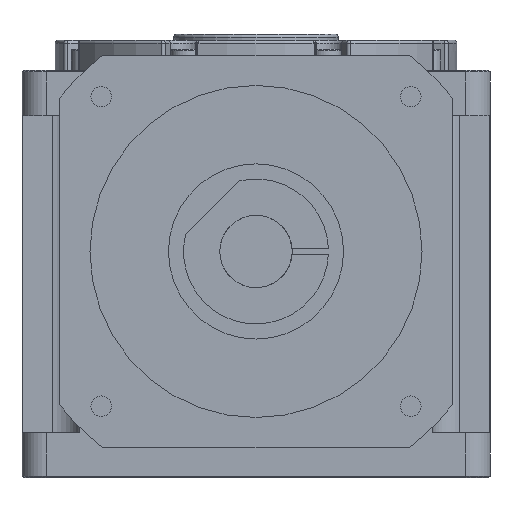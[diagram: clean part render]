
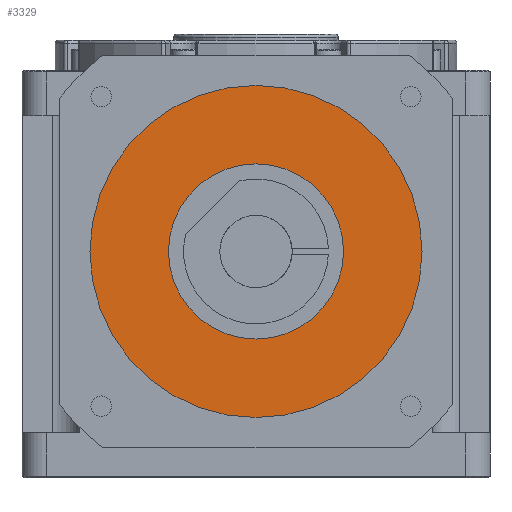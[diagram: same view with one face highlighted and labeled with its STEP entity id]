
A CAD part, front view. The second image highlights one B-rep face of the part: STEP entity #3329.
In plain terms, the highlighted planar face has unit normal (0, -1, 0) as drawn and (0, 0, -1) by its records, which use the part's own axes.
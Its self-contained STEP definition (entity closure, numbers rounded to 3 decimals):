
#261 = EDGE_CURVE ( 'NONE', #15425, #9069, #4768, .T. ) ;
#554 = EDGE_CURVE ( 'NONE', #3079, #1111, #1568, .T. ) ;
#898 = DIRECTION ( 'NONE',  ( -1., 0., 0. ) ) ;
#943 = CIRCLE ( 'NONE', #11040, 29. ) ;
#1111 = VERTEX_POINT ( 'NONE', #13558 ) ;
#1424 = EDGE_LOOP ( 'NONE', ( #3984, #3924 ) ) ;
#1541 = DIRECTION ( 'NONE',  ( -1., 0., 0. ) ) ;
#1568 = CIRCLE ( 'NONE', #8868, 55. ) ;
#1600 = AXIS2_PLACEMENT_3D ( 'NONE', #17036, #10388, #898 ) ;
#2674 = DIRECTION ( 'NONE',  ( -1., 0., 0. ) ) ;
#2751 = CARTESIAN_POINT ( 'NONE',  ( 0., 0., -151. ) ) ;
#3007 = CIRCLE ( 'NONE', #1600, 55. ) ;
#3079 = VERTEX_POINT ( 'NONE', #3215 ) ;
#3215 = CARTESIAN_POINT ( 'NONE',  ( 55., 0., -151. ) ) ;
#3329 = ADVANCED_FACE ( 'NONE', ( #12060, #5282 ), #8192, .T. ) ;
#3924 = ORIENTED_EDGE ( 'NONE', *, *, #554, .T. ) ;
#3984 = ORIENTED_EDGE ( 'NONE', *, *, #4834, .T. ) ;
#4768 = CIRCLE ( 'NONE', #14564, 29. ) ;
#4834 = EDGE_CURVE ( 'NONE', #1111, #3079, #3007, .T. ) ;
#4907 = DIRECTION ( 'NONE',  ( -1., 0., 0. ) ) ;
#5282 = FACE_OUTER_BOUND ( 'NONE', #1424, .T. ) ;
#5981 = CARTESIAN_POINT ( 'NONE',  ( 29., 0., -151. ) ) ;
#7093 = DIRECTION ( 'NONE',  ( -1., 0., 0. ) ) ;
#8192 = PLANE ( 'NONE',  #10763 ) ;
#8426 = CARTESIAN_POINT ( 'NONE',  ( 0., 0., -151. ) ) ;
#8868 = AXIS2_PLACEMENT_3D ( 'NONE', #11764, #10447, #4907 ) ;
#9069 = VERTEX_POINT ( 'NONE', #16110 ) ;
#9779 = EDGE_LOOP ( 'NONE', ( #14038, #12601 ) ) ;
#10388 = DIRECTION ( 'NONE',  ( 0., 0., -1. ) ) ;
#10447 = DIRECTION ( 'NONE',  ( 0., 0., -1. ) ) ;
#10763 = AXIS2_PLACEMENT_3D ( 'NONE', #2751, #12145, #2674 ) ;
#11040 = AXIS2_PLACEMENT_3D ( 'NONE', #15834, #13552, #1541 ) ;
#11764 = CARTESIAN_POINT ( 'NONE',  ( 0., 0., -151. ) ) ;
#12060 = FACE_BOUND ( 'NONE', #9779, .T. ) ;
#12145 = DIRECTION ( 'NONE',  ( 0., 0., -1. ) ) ;
#12601 = ORIENTED_EDGE ( 'NONE', *, *, #261, .F. ) ;
#13552 = DIRECTION ( 'NONE',  ( 0., 0., -1. ) ) ;
#13558 = CARTESIAN_POINT ( 'NONE',  ( -55., 0., -151. ) ) ;
#13763 = DIRECTION ( 'NONE',  ( 0., 0., -1. ) ) ;
#14038 = ORIENTED_EDGE ( 'NONE', *, *, #15246, .F. ) ;
#14564 = AXIS2_PLACEMENT_3D ( 'NONE', #8426, #13763, #7093 ) ;
#15246 = EDGE_CURVE ( 'NONE', #9069, #15425, #943, .T. ) ;
#15425 = VERTEX_POINT ( 'NONE', #5981 ) ;
#15834 = CARTESIAN_POINT ( 'NONE',  ( 0., 0., -151. ) ) ;
#16110 = CARTESIAN_POINT ( 'NONE',  ( -29., 0., -151. ) ) ;
#17036 = CARTESIAN_POINT ( 'NONE',  ( 0., 0., -151. ) ) ;
